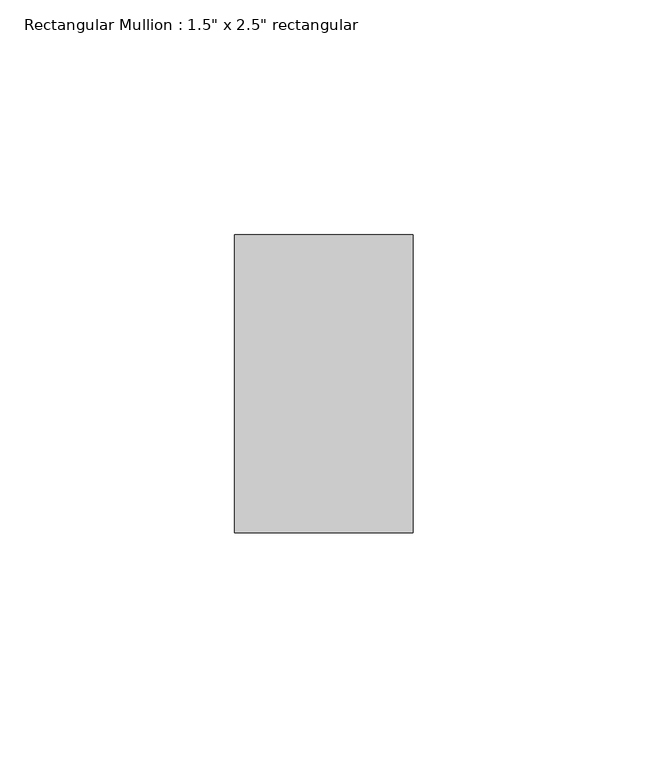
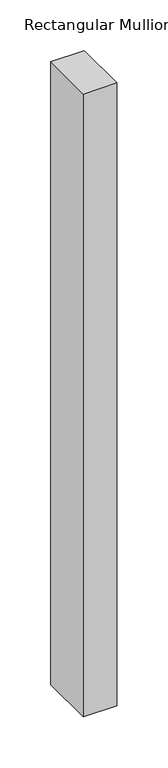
"""IFC4 building model written with IfcOpenShell, lengths in millimetres: member geometry."""

from ifc_helpers import new_model, si_unit, frame, origin, place, context, project, spatial, polyline, outline, extrude, source, transform, mapped, element, save


def member_226e51d8(model_context):
    return source(origin(), model_context, "Body", "SweptSolid", [
        extrude(outline(polyline([(19.05, 31.75), (19.05, -31.75), (-19.05, -31.75), (-19.05, 31.75), (19.05, 31.75)])), frame((0.0, 0.0, -747.5511567), z_axis=(0.0, 0.0, 1.0), x_axis=(1.0, 0.0, 0.0)), (0.0, 0.0, 1.0), 747.5511567),
    ])


if __name__ == "__main__":
    model = new_model("IFC4")
    model_context = context("Model", 3, world=origin())
    ifc_project = project(units=[si_unit("LENGTHUNIT", "METRE", prefix="MILLI")], contexts=[model_context])
    site = spatial("IfcSite", under=ifc_project)
    building = spatial("IfcBuilding", under=site)
    placement = place(None, origin())
    member_shape = member_226e51d8(model_context)
    element("IfcMember", 1, ObjectType="Rectangular Mullion : 1.5\" x 2.5\" rectangular", at=placement, inside=building, context=model_context, shape_type="MappedRepresentation", body=[
        mapped(member_shape, transform((0.0, 0.0, 0.0), x_axis=(1.0, 0.0, 0.0), y_axis=(0.0, 1.0, 0.0), z_axis=(0.0, 0.0, 1.0))),
    ])
    save(model, "model.ifc")
